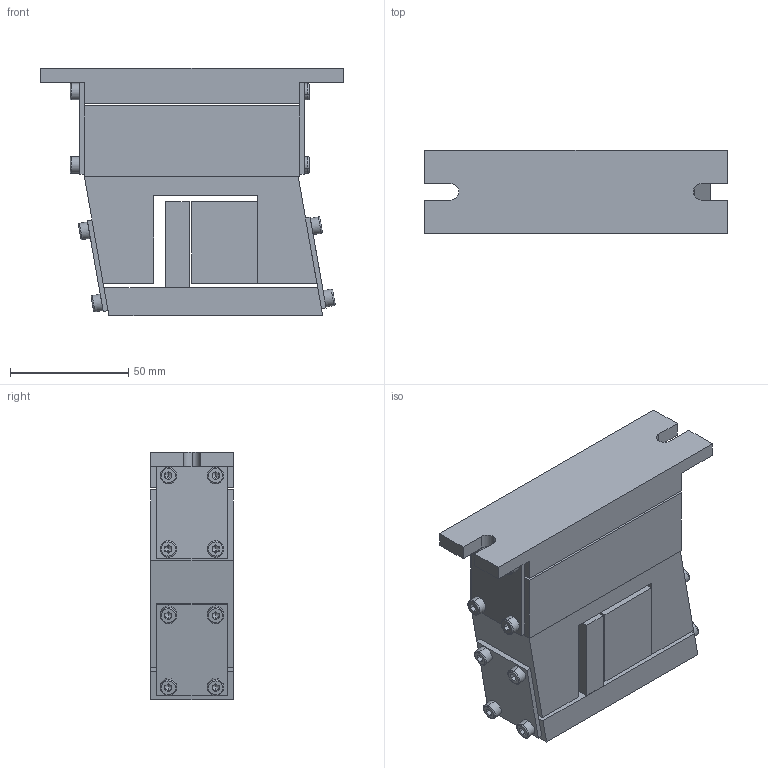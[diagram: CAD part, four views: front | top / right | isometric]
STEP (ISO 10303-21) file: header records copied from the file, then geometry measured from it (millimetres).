
FILE_DESCRIPTION (( 'STEP AP203' ), '1' );
FILE_NAME ('ZA90 耀倰 傻遴-1.STEP', '2024-09-14T06:42:28', ( '' ), ( '' ), 'SwSTEP 2.0', 'SolidWorks 2022', '' );
FILE_SCHEMA (( 'CONFIG_CONTROL_DESIGN' ));
Length unit declared in the file: millimetre
Products named in the file (1): ZA90 耀倰  傻遴-1
Bounding box: 128 x 35 x 104.83 mm (x, y, z)
Volume: 324305.8 mm3; surface area: 84228.3 mm2
Topology: 26 solids, 26 shells, 539 faces, 1247 edges, 762 vertices
Faces by surface type: plane 316, cylinder 127, cone 64, torus 32
Entity records: 15134 total; most frequent: DIRECTION 2773, CARTESIAN_POINT 2517, ORIENTED_EDGE 2430, EDGE_CURVE 1215, AXIS2_PLACEMENT_3D 1018, VERTEX_POINT 762, LINE 737, VECTOR 737
